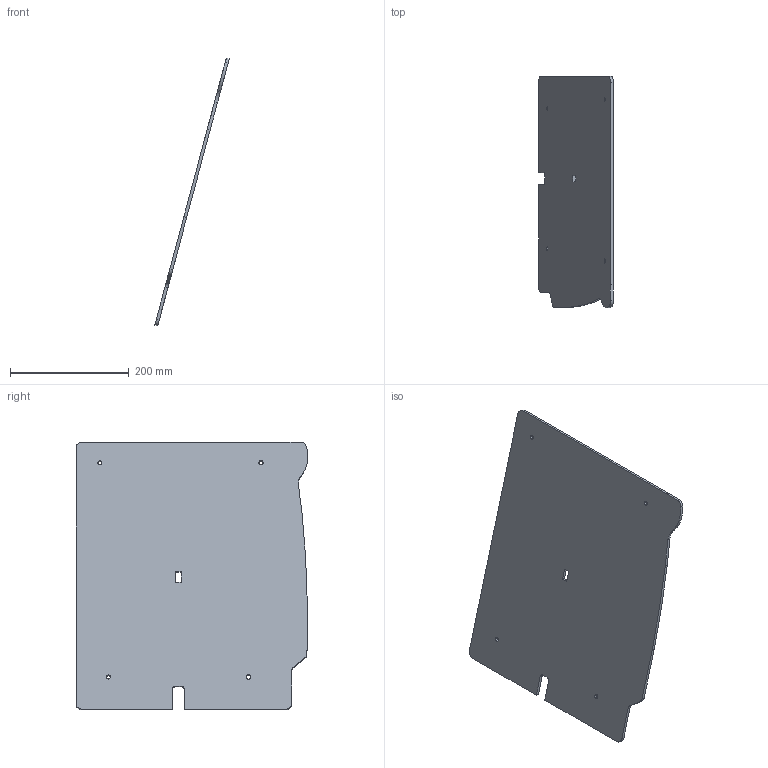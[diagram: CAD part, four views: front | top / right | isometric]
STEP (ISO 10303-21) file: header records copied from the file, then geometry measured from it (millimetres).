
FILE_DESCRIPTION(('CATIA V5 STEP Exchange'),'2;1');
FILE_NAME('E:\福田轻卡项目\01-M4中期改款项目\8、2D\基础款2D\附件2D\新建文件夹\SLT0010950--主驾背板总成\SLT0011997.stp','2023-09-14T10:14:26+00:00',('none'),('none'),'CATIA Version 5 Release 20 GA (IN-10)','CATIA V5 STEP AP214','none');
FILE_SCHEMA(('AUTOMOTIVE_DESIGN { 1 0 10303 214 1 1 1 1 }'));
Length unit declared in the file: millimetre
Products named in the file (1): SLT0010953
Bounding box: 125.2 x 389.75 x 450.51 mm (x, y, z)
Volume: 879982.2 mm3; surface area: 361537.3 mm2
Topology: 1 solids, 1 shells, 40 faces, 130 edges, 92 vertices
Faces by surface type: plane 18, cylinder 17, bspline 5
Entity records: 1931 total; most frequent: CARTESIAN_POINT 835, ORIENTED_EDGE 260, DIRECTION 155, EDGE_CURVE 130, VERTEX_POINT 92, VECTOR 63, LINE 63, AXIS2_PLACEMENT_3D 62
